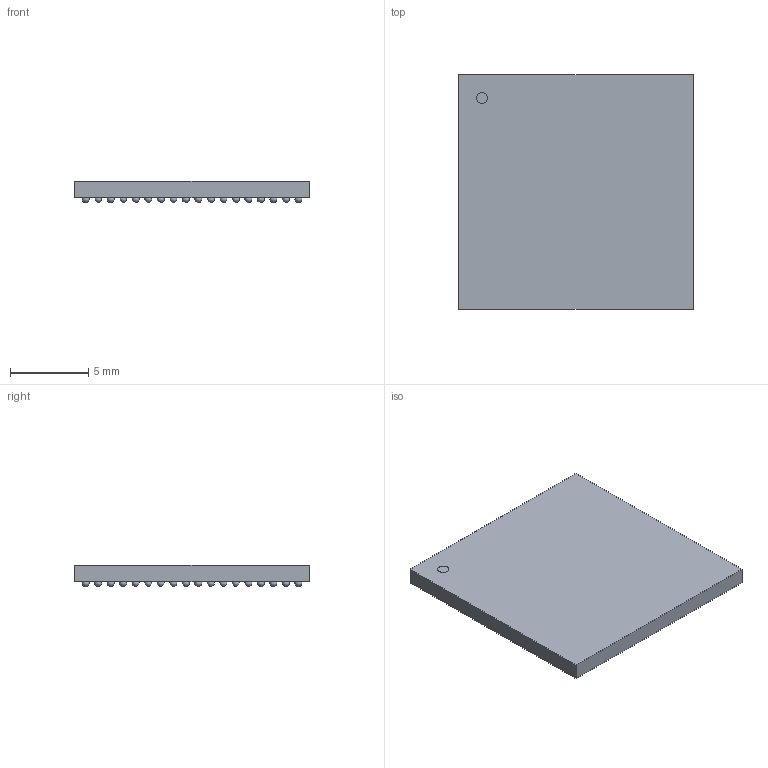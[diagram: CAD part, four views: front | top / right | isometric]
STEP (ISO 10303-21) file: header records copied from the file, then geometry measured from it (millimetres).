
FILE_DESCRIPTION(('Open CASCADE Model'),'2;1');
FILE_NAME('Open CASCADE Shape Model','2026-10-04T11:22:50',('Author'),( 'Open CASCADE'),'Open CASCADE STEP processor 7.9','Open CASCADE 7.9' ,'Unknown');
FILE_SCHEMA(('AUTOMOTIVE_DESIGN { 1 0 10303 214 1 1 1 1 }'));
Length unit declared in the file: millimetre
Products named in the file (327): AMD_CSG325_UG475_Drawing_Derived_Nominal; CSG325_Body; A1_Orientation_Marker; Ball_A1; Ball_A2; Ball_A3; Ball_A4; Ball_A5; Ball_A6; Ball_A7; Ball_A8; Ball_A9; Ball_A10; Ball_A11; Ball_A12; Ball_A13; Ball_A14; Ball_A15; Ball_A16; Ball_A17; Ball_A18; Ball_B1; Ball_B2; Ball_B3; Ball_B4; Ball_B5; Ball_B6; Ball_B7; Ball_B8; Ball_B9; Ball_B10; Ball_B11; Ball_B12; Ball_B13; Ball_B14; Ball_B15; Ball_B16; Ball_B17; Ball_B18; Ball_C1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
Assembly tree (326 placements, depth 2):
  AMD_CSG325_UG475_Drawing_Derived_Nominal
    CSG325_Body
    A1_Orientation_Marker
    Ball_A1
    Ball_A2
    Ball_A3
    Ball_A4
    Ball_A5
    Ball_A6
    Ball_A7
    Ball_A8
    Ball_A9
    Ball_A10
    Ball_A11
    Ball_A12
    Ball_A13
    Ball_A14
    Ball_A15
    Ball_A16
    Ball_A17
    Ball_A18
    Ball_B1
    Ball_B2
    Ball_B3
    Ball_B4
    Ball_B5
    Ball_B6
    Ball_B7
    Ball_B8
    Ball_B9
    Ball_B10
    Ball_B11
    Ball_B12
    Ball_B13
    Ball_B14
    Ball_B15
    Ball_B16
    Ball_B17
    Ball_B18
    Ball_C1
    Ball_C2
    Ball_C3
    Ball_C4
    Ball_C5
    Ball_C6
    Ball_C7
    Ball_C8
    Ball_C9
    Ball_C10
    Ball_C11
    Ball_C12
    Ball_C13
    Ball_C14
    Ball_C15
    Ball_C16
    Ball_C17
    Ball_C18
    Ball_D1
    Ball_D2
    Ball_D3
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Bounding box: 15 x 15 x 1.36 mm (x, y, z)
Volume: 250 mm3; surface area: 697.6 mm2
Topology: 326 solids, 326 shells, 659 faces, 990 edges, 660 vertices
Faces by surface type: plane 333, sphere 324, cylinder 2
Full cylindrical faces by diameter (mm): 0.7 x2
Entity records: 29713 total; most frequent: DIRECTION 4622, CARTESIAN_POINT 3644, AXIS2_PLACEMENT_3D 1638, ORIENTED_EDGE 1332, PCURVE 1332, DEFINITIONAL_REPRESENTATION 1332, LINE 1018, VECTOR 1018
